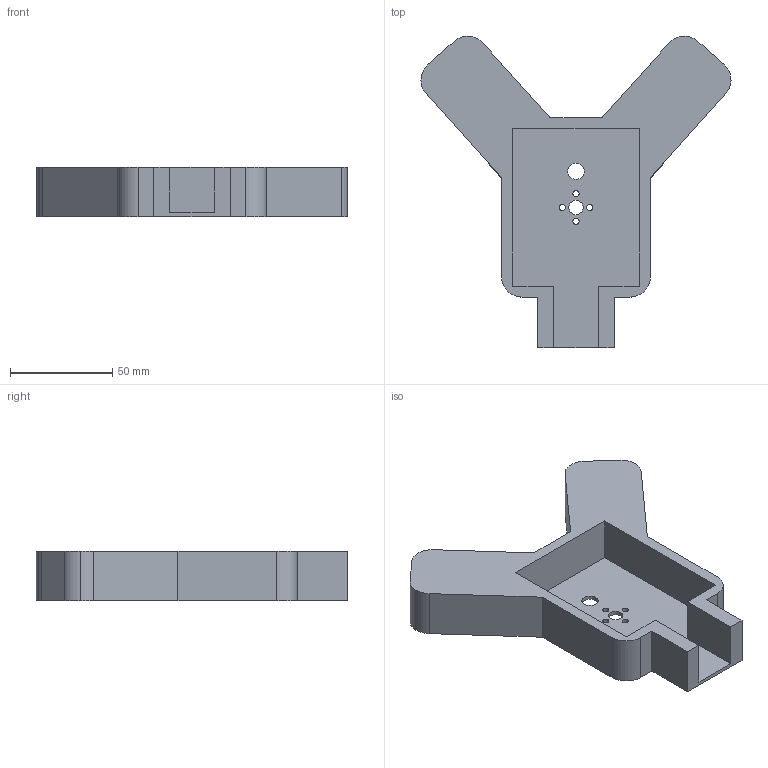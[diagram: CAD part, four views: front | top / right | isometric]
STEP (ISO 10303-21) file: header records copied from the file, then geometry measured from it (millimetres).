
FILE_DESCRIPTION (( 'STEP AP203' ), '1' );
FILE_NAME ('base robot^no horni bot.STEP', '2024-12-26T18:55:10', ( '' ), ( '' ), 'SwSTEP 2.0', 'SolidWorks 2019', '' );
FILE_SCHEMA (( 'CONFIG_CONTROL_DESIGN' ));
Length unit declared in the file: millimetre
Products named in the file (1): base robot^no horni bot
Bounding box: 151.81 x 152.59 x 24 mm (x, y, z)
Volume: 147559.7 mm3; surface area: 42202.5 mm2
Topology: 1 solids, 1 shells, 43 faces, 123 edges, 82 vertices
Faces by surface type: plane 24, cylinder 19
Entity records: 1516 total; most frequent: CARTESIAN_POINT 249, DIRECTION 249, ORIENTED_EDGE 246, EDGE_CURVE 123, LINE 85, VECTOR 85, AXIS2_PLACEMENT_3D 82, VERTEX_POINT 82
